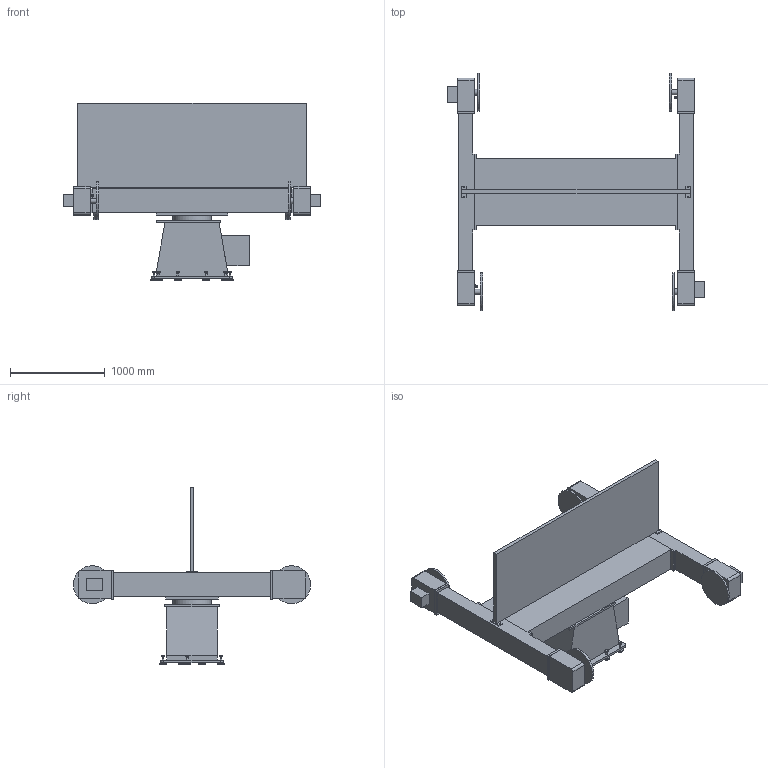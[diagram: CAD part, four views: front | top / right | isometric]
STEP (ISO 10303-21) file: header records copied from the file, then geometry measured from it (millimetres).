
FILE_DESCRIPTION((''),'2;1');
FILE_NAME('H:\Machine construction\Products\Layout symbols\Positioners\VMH\013161-101 VMH-500 S2NM (Low res).stp','2008-03-31T14:16:37',('pbt'),(''),'Autodesk Inventor 2008','Autodesk Inventor 2008','');
FILE_SCHEMA(('AUTOMOTIVE_DESIGN { 1 0 10303 214 1 1 1 1 }'));
Length unit declared in the file: millimetre
Products named in the file (16): 013161- VMH-500 S2NM (iAssy).iam (No details); 013157-100 Y-enhet (1500).iam (No details); 013157-100 Y-enhet (low-res); 013163-101 Vinge 500 kg.iam (No details); 114998-101  Mittbalk (Bearbetning) (iAssy).iam (No details); 114998-101 Mittbalk (Bearbetning) (low-res); 115010-100 Arm (bearbetning).iam (No details); 115010-100 Arm (bearbetning) (low-res); 114928-100 Drivdocka 500 kg.iam (No details); 114928-100 Drivdocka 500kg (low-res); 114933-100 Stöddocka.iam (No details); 114933-100 Stöddocka (low-res); 6002115 MC6S 16x40; 6026012 RB M16; 215282-101 Bländskydd.iam (No details); 215282-101 Bländskydd (low-res)
Assembly tree (18 placements, depth 4):
  013161- VMH-500 S2NM (iAssy).iam (No details)
    013157-100 Y-enhet (1500).iam (No details)
      013157-100 Y-enhet (low-res)
    013163-101 Vinge 500 kg.iam (No details)
      114998-101  Mittbalk (Bearbetning) (iAssy).iam (No details)
        114998-101 Mittbalk (Bearbetning) (low-res)
      115010-100 Arm (bearbetning).iam (No details)  x2
        115010-100 Arm (bearbetning) (low-res)
      114928-100 Drivdocka 500 kg.iam (No details)  x2
        114928-100 Drivdocka 500kg (low-res)
      114933-100 Stöddocka.iam (No details)  x2
        114933-100 Stöddocka (low-res)
        6002115 MC6S 16x40
        6026012 RB M16
    215282-101 Bländskydd.iam (No details)
      215282-101 Bländskydd (low-res)
Bounding box: 2715 x 2500 x 1874 mm (x, y, z)
Volume: 954857585.9 mm3; surface area: 18644355.2 mm2
Topology: 17 solids, 28 shells, 549 faces, 1121 edges, 742 vertices
Faces by surface type: plane 343, cylinder 91, bspline 72, cone 43
Full cylindrical faces by diameter (mm): 16 x4, 17 x2, 20 x33, 24 x2, 28.19 x11, 30 x2, 50 x2, 64.925 x2, 65 x1, 70 x11, 100 x1, 133 x2, 220 x1, 400 x4, 403.5 x1
Entity records: 12151 total; most frequent: CARTESIAN_POINT 2801, DIRECTION 1758, ORIENTED_EDGE 1478, EDGE_CURVE 739, AXIS2_PLACEMENT_3D 688, EDGE_LOOP 680, VERTEX_POINT 559, FACE_OUTER_BOUND 446
